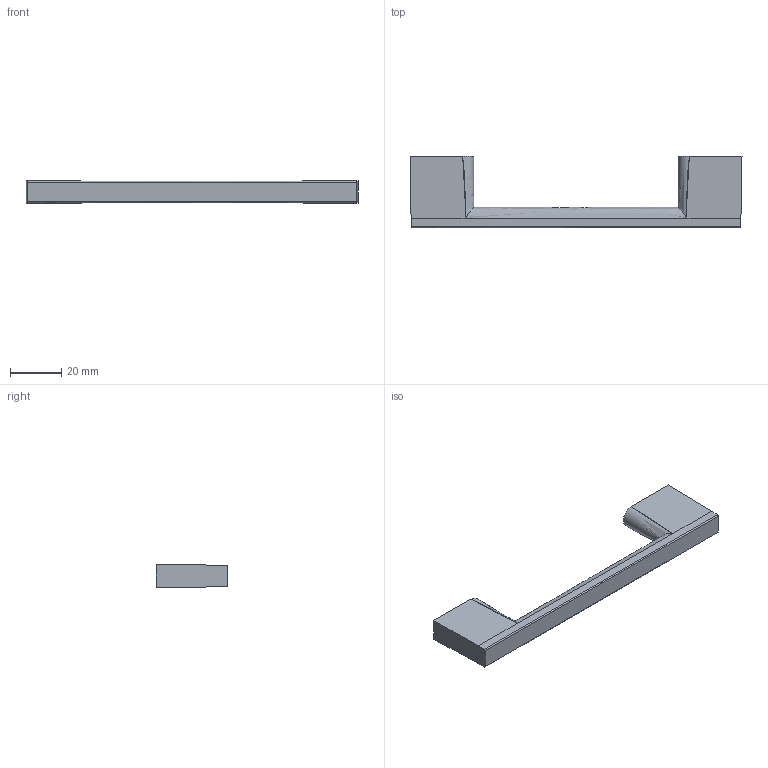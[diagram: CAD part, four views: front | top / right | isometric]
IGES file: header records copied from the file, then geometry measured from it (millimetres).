
Start section: Data from Parasolid IGES Translator 20.0.26, Copyright(c) 2006 Siemens P LM Software. All Rights Reserved.
Global section: file name: 43643.igs; native system: By Siemens PLM Incorporated; preprocessor: XPlus GENERIC/IGES 20.0.26; author: Noname; organization: Noname; date: 20211115.184401; units: millimetre
Bounding box: 130 x 28 x 9 mm (x, y, z)
Surface area: 7144.5 mm2 (no closed solid volume)
Topology: 0 solids, 0 shells, 24 faces, 100 edges, 98 vertices
Faces by surface type: extrusion 15, revolution 9
